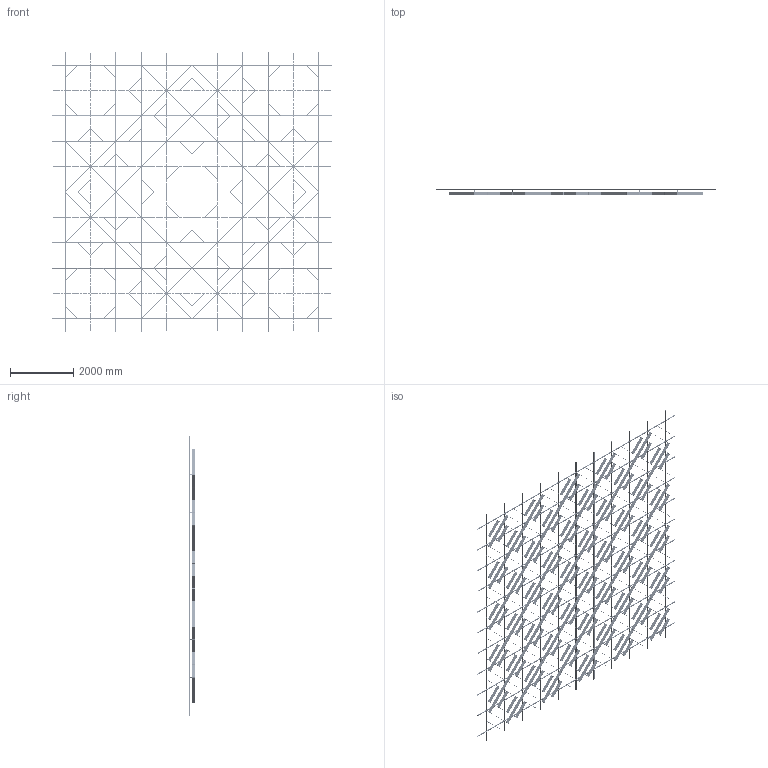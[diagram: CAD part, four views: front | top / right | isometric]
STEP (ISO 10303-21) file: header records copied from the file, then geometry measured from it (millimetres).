
FILE_DESCRIPTION (( 'STEP AP203' ), '1' );
FILE_NAME ('4 ìèäè ñ ïñ.step', '2025-11-26T11:26:36', ( '' ), ( '' ), 'SwSTEP 2.0', 'SolidWorks 2020', '' );
FILE_SCHEMA (( 'CONFIG_CONTROL_DESIGN' ));
Length unit declared in the file: millimetre
Products named in the file (5): SS.SEMA.2400 - Ñèìà-ïðîôèëü; 4 ìèäè ñ ïñ; SS.SEMA.2400 - Ñèìà-ïðîôèëü — îáðåçàí 1600; Var4; Ñèñòåìà â çîíå 8000õ8000
Assembly tree (90 placements, depth 3):
  4 ìèäè ñ ïñ
    Ñèñòåìà â çîíå 8000õ8000
      SS.SEMA.2400 - Ñèìà-ïðîôèëü  x66
      SS.SEMA.2400 - Ñèìà-ïðîôèëü — îáðåçàí 1600  x22
    Var4
Bounding box: 8800 x 205 x 8800 mm (x, y, z)
Volume: 205319075.3 mm3; surface area: 79382235.8 mm2
Topology: 1508 solids, 1508 shells, 22780 faces, 57884 edges, 38120 vertices
Faces by surface type: cylinder 14098, plane 8682
Entity records: 157591 total; most frequent: CARTESIAN_POINT 36194, DIRECTION 23874, ORIENTED_EDGE 22616, AXIS2_PLACEMENT_3D 11688, EDGE_CURVE 11308, VERTEX_POINT 7528, EDGE_LOOP 6786, FACE_OUTER_BOUND 6624
